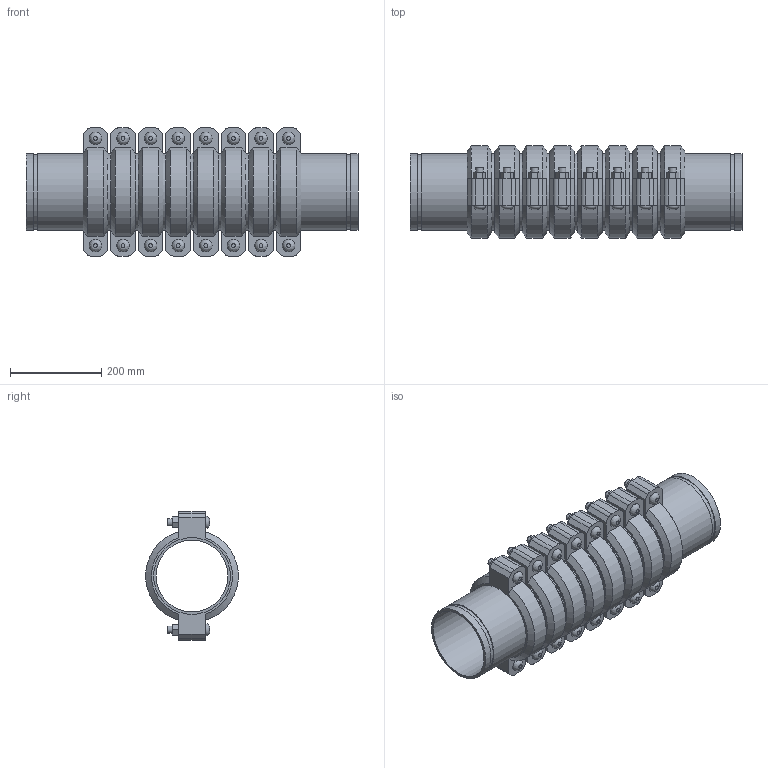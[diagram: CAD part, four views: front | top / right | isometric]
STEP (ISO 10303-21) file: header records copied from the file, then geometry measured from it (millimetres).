
FILE_DESCRIPTION(/* description */ ('VIC SS EXPANSION JOINT 8 COUPLINGS COMPRESSED STYLE 155P (OGS) (POTABLE WATER) ','CAx-IF Rec.Pracs.---Representation and Presentation of Product Manufacturing Information (PMI)---4.0---2014-10-13'),/* implementation_level */ '2;1');
FILE_NAME(/* name */ 'C:\Users\kkamble\AppData\Roaming\Autodesk\ApplicationPlugins\Victaulic.Temp\A39\Victaulic_SS_Expansion Joint_Compressed_8 Couplings_Style 155P (OGS)-Potable Water_8 Coup_Comp_6 (150).stp',/* time_stamp */ '2021-07-16T17:17:25+06:00',/* author */ ('kkamble'),/* organization */ ('Victaulic'),/* preprocessor_version */ 'ST-DEVELOPER v17.2',/* originating_system */ 'Autodesk Inventor 2019',/* authorisation */ '');
FILE_SCHEMA (('AP242_MANAGED_MODEL_BASED_3D_ENGINEERING_MIM_LF { 1 0 10303 442 1 1 4 }'));
Length unit declared in the file: inch
Products named in the file (4): 155P-06.0; Nipple-06.0; Nipple-06.0_1; 075-06.0
Assembly tree (17 placements, depth 2):
  155P-06.0
    Nipple-06.0  x2
    Nipple-06.0_1  x7
    075-06.0  x8
Bounding box: 727.2 x 202.46 x 281.18 mm (x, y, z)
Volume: 7871450.5 mm3; surface area: 1712606 mm2
Topology: 17 solids, 33 shells, 532 faces, 1286 edges, 904 vertices
Faces by surface type: plane 326, cylinder 158, cone 32, bspline 16
Full cylindrical faces by diameter (mm): 15.875 x32, 17.424 x16, 157.15 x9, 163.957 x18, 168.275 x35
Entity records: 2737 total; most frequent: CARTESIAN_POINT 487, DIRECTION 459, ORIENTED_EDGE 374, EDGE_CURVE 187, AXIS2_PLACEMENT_3D 184, VERTEX_POINT 134, EDGE_LOOP 101, LINE 91
